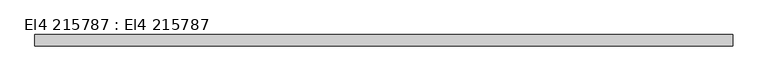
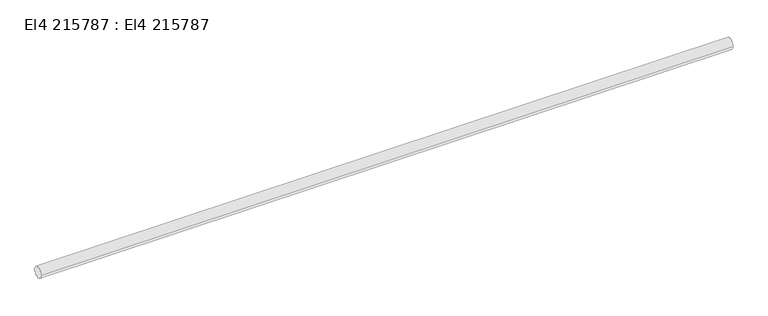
"""IFC4 building model written with IfcOpenShell, lengths in millimetres: cable carrier segment geometry, El4 215787 : El4 215787."""

import ifcopenshell
import ifcopenshell.guid

model = None  # the IFC model being written
_history = None  # IfcOwnerHistory: only IFC2X3 demands one
_inside = {}  # id of a spatial element -> (the spatial element, [elements in it])
_under = {}  # id of a project, library or spatial element -> (it, [spatial elements below it])
_declared = {}  # id of a project -> (the project, [libraries it declares])
_typed = {}  # id of a type object -> (the type object, [elements of that type])
_made_of = {}  # id of a material, layer set ... -> (it, [elements and type objects made of it])


def new_model(schema):
    """Start an empty IFC model of exactly this schema.

    Asked for "IFC4X3", IfcOpenShell would pick the latest addendum, in which some entities
    have other attributes; the version numbers below select the first issue.
    IFC2X3 requires an IfcOwnerHistory on every rooted entity: one is made here for all.
    """
    global model, _history
    if schema == "IFC4X3":
        model = ifcopenshell.file(schema_version=(4, 3, 0, 0))
    else:
        model = ifcopenshell.file(schema=schema)
    _inside.clear()
    _under.clear()
    _declared.clear()
    _typed.clear()
    _made_of.clear()
    _history = None
    if model.schema == "IFC2X3":
        org = make("IfcOrganization", Name="unknown")
        user = make(
            "IfcPersonAndOrganization",
            ThePerson=make("IfcPerson", FamilyName="unknown"),
            TheOrganization=org,
        )
        app = make(
            "IfcApplication",
            ApplicationDeveloper=org,
            Version="unknown",
            ApplicationFullName="unknown",
            ApplicationIdentifier="unknown",
        )
        _history = make(
            "IfcOwnerHistory",
            OwningUser=user,
            OwningApplication=app,
            ChangeAction="ADDED",
            CreationDate=0,
        )
    return model


def make(cls, **values):
    """One entity of the class cls with the attributes given. An attribute that is None is left unset."""
    return model.create_entity(
        cls, **{name: value for name, value in values.items() if value is not None}
    )


def rooted(cls, **values):
    """An entity with a GlobalId (a new one), such as an element, a storey or a relation."""
    return make(cls, GlobalId=ifcopenshell.guid.new(), OwnerHistory=_history, **values)


def si_unit(unit_type, name, prefix=None):
    """IfcSIUnit, for example si_unit("LENGTHUNIT", "METRE", prefix="MILLI")."""
    return make("IfcSIUnit", UnitType=unit_type, Prefix=prefix, Name=name)


def assignment(units):
    """IfcUnitAssignment: the units of a project."""
    return None if units is None else make("IfcUnitAssignment", Units=units)


def point(xyz):
    """IfcCartesianPoint."""
    return None if xyz is None else make("IfcCartesianPoint", Coordinates=xyz)


def direction(xyz):
    """IfcDirection."""
    return None if xyz is None else make("IfcDirection", DirectionRatios=xyz)


def frame(location, z_axis=None, x_axis=None):
    """IfcAxis2Placement3D, a coordinate frame: its origin and axes. An axis left out is left unset."""
    return make(
        "IfcAxis2Placement3D",
        Location=point(location),
        Axis=direction(z_axis),
        RefDirection=direction(x_axis),
    )


def frame_2d(location, x_axis=None):
    """IfcAxis2Placement2D, a coordinate frame in the plane: its origin and x axis."""
    return make(
        "IfcAxis2Placement2D", Location=point(location), RefDirection=direction(x_axis)
    )


def origin():
    """The frame at (0, 0, 0) with its axes left unset."""
    return frame((0.0, 0.0, 0.0))


def place(relative_to, where):
    """IfcLocalPlacement: puts the frame where relative to a parent placement (None: the world)."""
    return make(
        "IfcLocalPlacement", PlacementRelTo=relative_to, RelativePlacement=where
    )


def context(
    kind, dimensions, precision=None, world=None, true_north=None, identifier=None
):
    """IfcGeometricRepresentationContext, for example the 3D "Model" context."""
    return make(
        "IfcGeometricRepresentationContext",
        ContextIdentifier=identifier,
        ContextType=kind,
        CoordinateSpaceDimension=dimensions,
        Precision=precision,
        WorldCoordinateSystem=world,
        TrueNorth=true_north,
    )


def project(units=None, contexts=None):
    """IfcProject with its units and contexts."""
    return rooted(
        "IfcProject",
        Name="project",
        RepresentationContexts=contexts,
        UnitsInContext=assignment(units),
    )


def spatial(cls, under=None, at=None, **own):
    """A site, building, storey or space (cls), placed at a placement, below another one or the project."""
    s = rooted(cls, ObjectPlacement=at, **own)
    if under is not None:
        _under.setdefault(under.id(), (under, []))[1].append(s)
    return s


def circle_curve(where, radius):
    """IfcCircle in the frame where."""
    return make("IfcCircle", Position=where, Radius=radius)


def trimmed(basis, trim1, trim2, sense, master):
    """IfcTrimmedCurve: the piece of a basis curve between two trims."""
    return make(
        "IfcTrimmedCurve",
        BasisCurve=basis,
        Trim1=trim1,
        Trim2=trim2,
        SenseAgreement=sense,
        MasterRepresentation=master,
    )


def segment(curve, same_sense, transition):
    """IfcCompositeCurveSegment."""
    return make(
        "IfcCompositeCurveSegment",
        Transition=transition,
        SameSense=same_sense,
        ParentCurve=curve,
    )


def composite_curve(segments, self_intersect=None):
    """IfcCompositeCurve: segments joined end to end."""
    return make("IfcCompositeCurve", Segments=segments, SelfIntersect=self_intersect)


def outline(outer, holes=None, kind="AREA"):
    """IfcArbitraryClosedProfileDef: a profile drawn as a closed curve; with holes, ...WithVoids."""
    if holes is None:
        return make("IfcArbitraryClosedProfileDef", ProfileType=kind, OuterCurve=outer)
    return make(
        "IfcArbitraryProfileDefWithVoids",
        ProfileType=kind,
        OuterCurve=outer,
        InnerCurves=holes,
    )


def extrude(swept, where, along, depth):
    """IfcExtrudedAreaSolid: the profile swept, set in the frame where, extruded along a direction by depth."""
    return make(
        "IfcExtrudedAreaSolid",
        SweptArea=swept,
        Position=where,
        ExtrudedDirection=direction(along),
        Depth=depth,
    )


def shape(context_of_items, identifier, shape_type, items):
    """IfcShapeRepresentation: the items that make up one representation, for example the "Body"."""
    return make(
        "IfcShapeRepresentation",
        ContextOfItems=context_of_items,
        RepresentationIdentifier=identifier,
        RepresentationType=shape_type,
        Items=items,
    )


def source(mapping_origin, context_of_items, identifier, shape_type, items):
    """IfcRepresentationMap: a shape defined once, which mapped items show again and again."""
    return make(
        "IfcRepresentationMap",
        MappingOrigin=mapping_origin,
        MappedRepresentation=shape(context_of_items, identifier, shape_type, items),
    )


def transform(
    local_origin,
    x_axis=None,
    y_axis=None,
    z_axis=None,
    scale=None,
    scale2=None,
    scale3=None,
    uniform=True,
):
    """IfcCartesianTransformationOperator3D, or its non-uniform kind. x_axis, y_axis, z_axis: its Axis1, 2, 3."""
    if uniform:
        return make(
            "IfcCartesianTransformationOperator3D",
            Axis1=direction(x_axis),
            Axis2=direction(y_axis),
            LocalOrigin=point(local_origin),
            Scale=scale,
            Axis3=direction(z_axis),
        )
    return make(
        "IfcCartesianTransformationOperator3DnonUniform",
        Axis1=direction(x_axis),
        Axis2=direction(y_axis),
        LocalOrigin=point(local_origin),
        Scale=scale,
        Axis3=direction(z_axis),
        Scale2=scale2,
        Scale3=scale3,
    )


def mapped(mapping_source, mapping_target):
    """IfcMappedItem: shows the shape of a source again, moved by a transform."""
    return make(
        "IfcMappedItem", MappingSource=mapping_source, MappingTarget=mapping_target
    )


def made_of(thing, what):
    """Note that an element or type object is made of a material, layer set ...; save() writes the relation."""
    if what is not None:
        _made_of.setdefault(what.id(), (what, []))[1].append(thing)
    return thing


def element(
    cls,
    number,
    at=None,
    inside=None,
    cuts=None,
    type_object=None,
    material=None,
    context=None,
    identifier="Body",
    shape_type=None,
    held_by="IfcProductDefinitionShape",
    body=None,
    shapes=None,
    **own,
):
    """One element of the class cls, such as IfcWall. Its Tag is "e" and its number.

    at: its placement. inside: the storey or other place that contains it. cuts: it is an
    opening in that element (IfcRelVoidsElement). A single representation is given by context,
    identifier, shape_type and body (its items); several are given by shapes. held_by: the class
    of the entity that holds the representations. save() writes the other relations.
    """
    e = rooted(cls, Tag="e%d" % number, ObjectPlacement=at, **own)
    if body is not None:
        shapes = [shape(context, identifier, shape_type, body)]
    if shapes is not None:
        e.Representation = make(held_by, Representations=shapes)
    if inside is not None:
        _inside.setdefault(inside.id(), (inside, []))[1].append(e)
    if cuts is not None:
        rooted(
            "IfcRelVoidsElement", RelatingBuildingElement=cuts, RelatedOpeningElement=e
        )
    if type_object is not None:
        _typed.setdefault(type_object.id(), (type_object, []))[1].append(e)
    return made_of(e, material)


def aggregate(whole, parts):
    """IfcRelAggregates: a whole, such as a stair, and the parts it consists of."""
    return rooted("IfcRelAggregates", RelatingObject=whole, RelatedObjects=parts)


def save(model, path):
    """Write the relations noted so far, then the file.

    IfcRelAggregates (storeys below a building ...), IfcRelContainedInSpatialStructure (elements
    in a storey), IfcRelDefinesByType, IfcRelAssociatesMaterial and IfcRelDeclares: one each for
    every whole, place, type object, material and project.
    """
    for whole, parts in _under.values():
        aggregate(whole, parts)
    for where, things in _inside.values():
        rooted(
            "IfcRelContainedInSpatialStructure",
            RelatedElements=things,
            RelatingStructure=where,
        )
    for kind, things in _typed.values():
        rooted("IfcRelDefinesByType", RelatedObjects=things, RelatingType=kind)
    for what, things in _made_of.values():
        rooted("IfcRelAssociatesMaterial", RelatedObjects=things, RelatingMaterial=what)
    for by, libraries in _declared.values():
        rooted("IfcRelDeclares", RelatingContext=by, RelatedDefinitions=libraries)
    model.write(path)


def el4_215787_el4_215787_48419ea9(model_context):
    return source(origin(), model_context, "Body", "SweptSolid", [
        extrude(outline(composite_curve([segment(trimmed(circle_curve(frame_2d((17022.1, 4200.0)), 9.5), [point((17012.6, 4200.0))], [point((17031.6, 4200.0))], False, "CARTESIAN"), True, "CONTINUOUS"), segment(trimmed(circle_curve(frame_2d((17022.1, 4200.0)), 9.5), [point((17031.6, 4200.0))], [point((17012.6, 4200.0))], False, "CARTESIAN"), True, "CONTINUOUS")], self_intersect=False)), frame((11305.0, 0.0, 0.0), z_axis=(1.0, 0.0, 0.0), x_axis=(0.0, 1.0, 0.0)), (0.0, 0.0, 1.0), 1180.0),
    ])


if __name__ == "__main__":
    model = new_model("IFC4")
    model_context = context("Model", 3, world=origin())
    ifc_project = project(units=[si_unit("LENGTHUNIT", "METRE", prefix="MILLI")], contexts=[model_context])
    site = spatial("IfcSite", under=ifc_project)
    building = spatial("IfcBuilding", under=site)
    placement = place(None, origin())
    el4_215787_el4_215787_shape = el4_215787_el4_215787_48419ea9(model_context)
    element("IfcCableCarrierSegment", 1, ObjectType="El4 215787 : El4 215787", at=placement, inside=building, context=model_context, shape_type="MappedRepresentation", body=[
        mapped(el4_215787_el4_215787_shape, transform((0.0, 0.0, 0.0), x_axis=(1.0, 0.0, 0.0), y_axis=(0.0, 1.0, 0.0), z_axis=(0.0, 0.0, 1.0))),
    ])
    save(model, "model.ifc")
